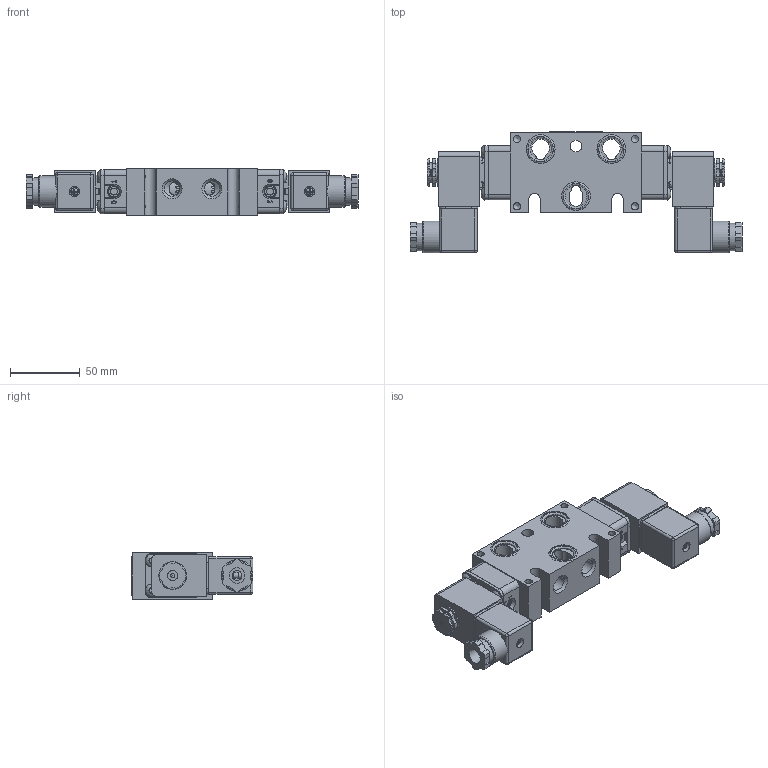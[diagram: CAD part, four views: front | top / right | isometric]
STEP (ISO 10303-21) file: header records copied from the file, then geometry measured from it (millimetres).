
FILE_DESCRIPTION(/* description */ (''),/* implementation_level */ '2;1');
FILE_NAME(/* name */ 'EBSS2ACZ.stp',/* time_stamp */ '2026-09-28T07:06:33-04:00',/* author */ ('rmckenna'),/* organization */ (''),/* preprocessor_version */ 'ST-DEVELOPER v20.2',/* originating_system */ 'Autodesk Inventor 2027',/* authorisation */ '');
FILE_SCHEMA (('AUTOMOTIVE_DESIGN { 1 0 10303 214 3 1 1 }'));
Products named in the file (1): Part1
Bounding box: 238.58 x 87.62 x 33.32 mm (x, y, z)
Volume: 279280.2 mm3; surface area: 116697.8 mm2
Topology: 1 solids, 42 shells, 2477 faces, 6221 edges, 3993 vertices
Faces by surface type: plane 1199, cylinder 735, cone 276, torus 153, bspline 94, sphere 20
Full cylindrical faces by diameter (mm): 1.168 x20, 1.3 x2, 1.397 x2, 1.5 x2, 1.651 x2, 2.032 x16, 2.07 x2, 2.261 x2, 2.35 x8, 2.5 x2, 2.778 x2, 2.8 x2, 2.819 x2, 2.845 x4, 3 x8, 3.048 x2, 3.4 x2, 3.683 x10, 4.064 x2, 4.191 x4, 4.826 x8, 4.953 x2, 5.15 x8, 5.156 x12, 5.385 x2, 5.5 x2, 5.537 x2, 5.563 x2, 6.553 x2, 7.01 x2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
Entity records: 82840 total; most frequent: CARTESIAN_POINT 20364, DIRECTION 12573, ORIENTED_EDGE 12378, EDGE_CURVE 6189, AXIS2_PLACEMENT_3D 4653, VERTEX_POINT 3988, LINE 3267, VECTOR 3267
